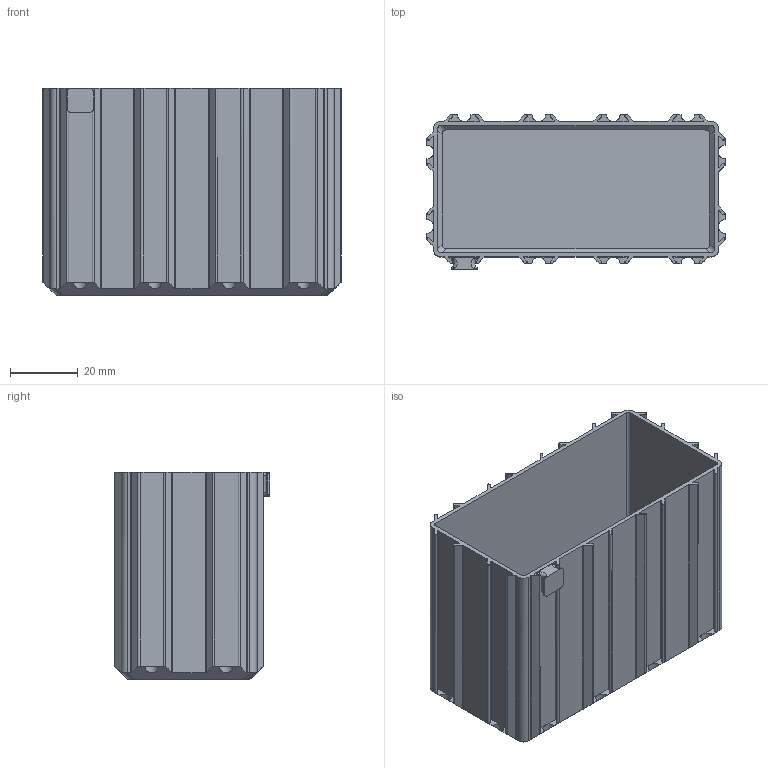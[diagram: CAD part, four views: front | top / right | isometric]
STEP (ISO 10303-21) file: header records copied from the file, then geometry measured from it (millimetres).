
FILE_DESCRIPTION(/* description */ (''),/* implementation_level */ '2;1');
FILE_NAME(/* name */ 'BOX_x04_y02_z060_tx0_ty0.stp',/* time_stamp */ '2024-02-16T08:36:35+01:00',/* author */ ('ott'),/* organization */ (''),/* preprocessor_version */ 'ST-DEVELOPER v19.2',/* originating_system */ 'Autodesk Inventor 2023',/* authorisation */ '');
FILE_SCHEMA (('AUTOMOTIVE_DESIGN { 1 0 10303 214 3 1 1 }'));
Length unit declared in the file: millimetre
Products named in the file (1): BOX_x04_y02_z060_tx0_ty0
Bounding box: 88 x 45.8 x 61.2 mm (x, y, z)
Volume: 24344 mm3; surface area: 41599 mm2
Topology: 2 solids, 2 shells, 235 faces, 664 edges, 434 vertices
Faces by surface type: plane 127, cylinder 104, torus 4
Entity records: 8018 total; most frequent: CARTESIAN_POINT 1428, DIRECTION 1372, ORIENTED_EDGE 1328, EDGE_CURVE 664, AXIS2_PLACEMENT_3D 480, VERTEX_POINT 434, LINE 412, VECTOR 412
